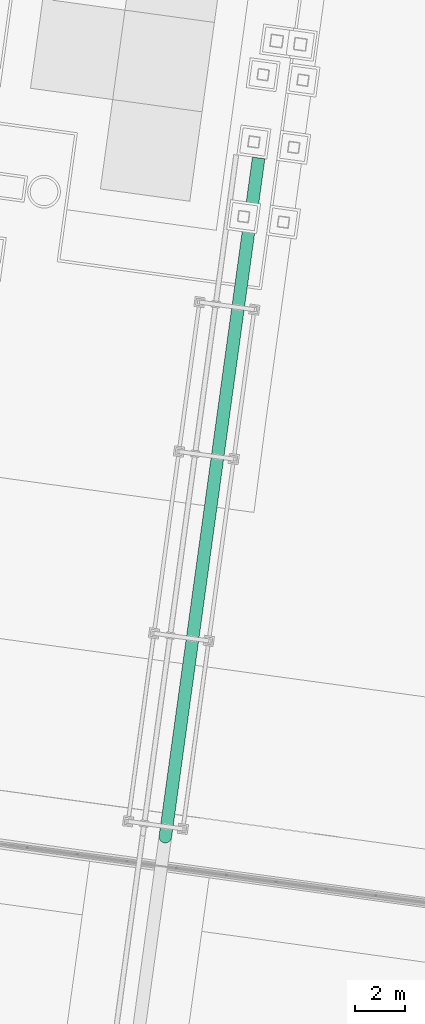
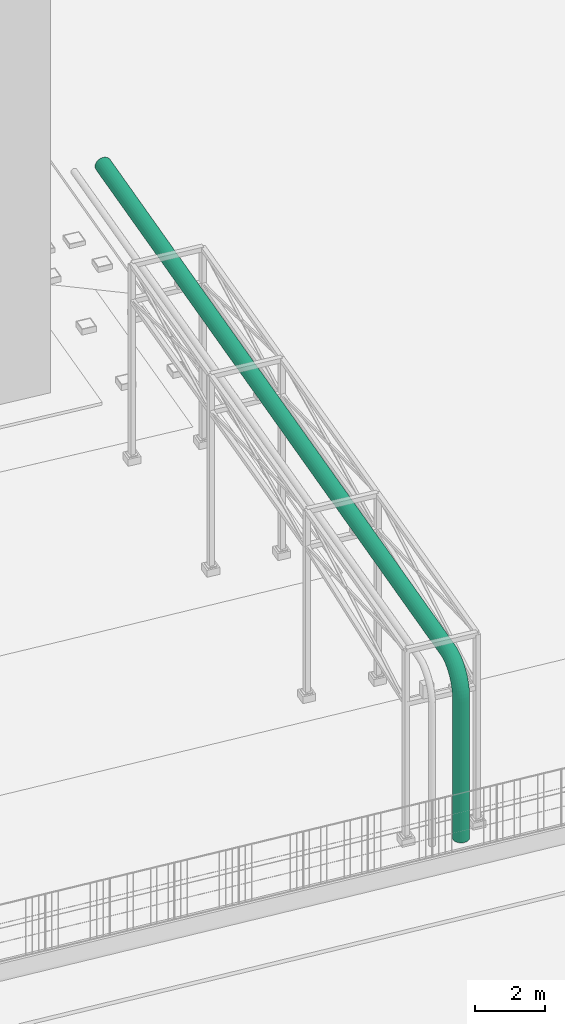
# Not in any storey, part 34 of 75: 1 pipe segment.
"""IFC4 model written with IfcOpenShell, lengths in metres."""

from ifc_helpers import new_model, si_unit, direction, origin, origin_with_axes, place, context, subcontext, project, spatial, triangles, element, save


model = new_model("IFC4")

# Units and contexts
model_context = context("Model", 3, precision=1e-05, world=origin_with_axes(), true_north=direction((0.0, 1.0)))
body_context = subcontext(model_context, "Body", "Model", "MODEL_VIEW")
ifc_project = project(units=[si_unit("AREAUNIT", "SQUARE_METRE"), si_unit("VOLUMEUNIT", "CUBIC_METRE"), si_unit("LENGTHUNIT", "METRE")], contexts=[model_context])

# Site
site_placement = place(None, origin_with_axes())
site = spatial("IfcSite", under=ifc_project, at=site_placement, Name="Parcela industrial Jinhong")

# Pipe segment
pipe_segment_placement = place(None, origin())
element("IfcPipeSegment", 1, at=pipe_segment_placement, inside=site, Name="Nitrógeno Ø 0,5 m · tramo aéreo y bajante", ObjectType="Nitrógeno Ø 0,5 m · tramo aéreo y bajante", PredefinedType="USERDEFINED", context=body_context, shape_type="Tessellation", body=[
    triangles([(59.693477, 40.404657, 7.2), (59.685037, 40.405818, 7.264705), (59.660295, 40.409219, 7.325), (59.620936, 40.414631, 7.376777), (59.569641, 40.421683, 7.416506), (59.509908, 40.429895, 7.441481), (59.445806, 40.438708, 7.45), (59.381705, 40.447521, 7.441481), (59.321971, 40.455734, 7.416506), (59.270677, 40.462786, 7.376777), (59.231318, 40.468197, 7.325), (59.206575, 40.471599, 7.264705), (59.198136, 40.472759, 7.2), (59.206575, 40.471599, 7.135295), (59.231318, 40.468197, 7.075), (59.270677, 40.462786, 7.023223), (59.321971, 40.455734, 6.983494), (59.381705, 40.447521, 6.958519), (59.445806, 40.438708, 6.95), (59.509908, 40.429895, 6.958519), (59.569641, 40.421683, 6.983494), (59.620936, 40.414631, 7.023223), (59.660295, 40.409219, 7.075), (59.685037, 40.405818, 7.135295), (56.118125, 14.399286, 7.2), (56.109684, 14.400434, 7.264705), (56.08494, 14.403825, 7.325), (56.045579, 14.409227, 7.376777), (55.994284, 14.416272, 7.416506), (55.93455, 14.42448, 7.441481), (55.870448, 14.433291, 7.45), (55.806347, 14.442106, 7.441481), (55.746614, 14.450323, 7.416506), (55.695321, 14.457382, 7.376777), (55.655963, 14.462803, 7.325), (55.631222, 14.466216, 7.264705), (55.622784, 14.467387, 7.2), (55.631225, 14.466239, 7.135295), (55.655969, 14.462848, 7.075), (55.69533, 14.457446, 7.023223), (55.746625, 14.450401, 6.983494), (55.806359, 14.442193, 6.958519), (55.870461, 14.433382, 6.95), (55.934562, 14.424567, 6.958519), (55.994295, 14.41635, 6.983494), (56.045588, 14.409291, 7.023223), (56.084946, 14.40387, 7.075), (56.109687, 14.400458, 7.135295), (56.104775, 14.302182, 7.195185), (56.095472, 14.297059, 7.259578), (56.069924, 14.294606, 7.319583), (56.029874, 14.294989, 7.37111), (55.978049, 14.298184, 7.410649), (55.917982, 14.303971, 7.435503), (55.853767, 14.311957, 7.443981), (55.789779, 14.321597, 7.435503), (55.730379, 14.332235, 7.410649), (55.679615, 14.343145, 7.37111), (55.640947, 14.353584, 7.319583), (55.617009, 14.36284, 7.259578), (55.609434, 14.370284, 7.195185), (55.618737, 14.375407, 7.130792), (55.644284, 14.37786, 7.070787), (55.684335, 14.377476, 7.019259), (55.73616, 14.374282, 6.979721), (55.796226, 14.368495, 6.954866), (55.860442, 14.360509, 6.946389), (55.92443, 14.350869, 6.954866), (55.98383, 14.340231, 6.979721), (56.034594, 14.329321, 7.019259), (56.073262, 14.318882, 7.070787), (56.097199, 14.309625, 7.130792), (56.091553, 14.206013, 7.180785), (56.081394, 14.194668, 7.244247), (56.05505, 14.186416, 7.303383), (56.014315, 14.181821, 7.354165), (55.961965, 14.181194, 7.393132), (55.901568, 14.18458, 7.417627), (55.83724, 14.191746, 7.425982), (55.773364, 14.202206, 7.417627), (55.714294, 14.215245, 7.393132), (55.664056, 14.229976, 7.354165), (55.626072, 14.245394, 7.303383), (55.602932, 14.260449, 7.244247), (55.596212, 14.274115, 7.180785), (55.606371, 14.285461, 7.117324), (55.632715, 14.293712, 7.058187), (55.673451, 14.298308, 7.007405), (55.7258, 14.298934, 6.968439), (55.786197, 14.295549, 6.943944), (55.850526, 14.288382, 6.935589), (55.914401, 14.277923, 6.943944), (55.973471, 14.264883, 6.968439), (56.023709, 14.250153, 7.007405), (56.061693, 14.234734, 7.058187), (56.084833, 14.219679, 7.117324), (56.078587, 14.111706, 7.15694), (56.067589, 14.094259, 7.218859), (56.040463, 14.080321, 7.276558), (55.999057, 14.070842, 7.326105), (55.946192, 14.066469, 7.364124), (55.885471, 14.067499, 7.388024), (55.821032, 14.073862, 7.396175), (55.757267, 14.085125, 7.388024), (55.698521, 14.10052, 7.364124), (55.648798, 14.118997, 7.326105), (55.611486, 14.139299, 7.276558), (55.589127, 14.16004, 7.218859), (55.583247, 14.179808, 7.15694), (55.594244, 14.197256, 7.095022), (55.62137, 14.211193, 7.037323), (55.662777, 14.220672, 6.987776), (55.715642, 14.225045, 6.949757), (55.776363, 14.224015, 6.925857), (55.840801, 14.217652, 6.917705), (55.904566, 14.206389, 6.925857), (55.963312, 14.190994, 6.949757), (56.013035, 14.172517, 6.987776), (56.050348, 14.152215, 7.037323), (56.072706, 14.131474, 7.095022), (56.066002, 14.020168, 7.12388), (56.05419, 13.996798, 7.183659), (56.026305, 13.977341, 7.239364), (55.984247, 13.963123, 7.2872), (55.930882, 13.955113, 7.323905), (55.869847, 13.953857, 7.346979), (55.805301, 13.95944, 7.354849), (55.741643, 13.971483, 7.346979), (55.683212, 13.989164, 7.323905), (55.633988, 14.011278, 7.2872), (55.597328, 14.036319, 7.239364), (55.575728, 14.062579, 7.183659), (55.570661, 14.08827, 7.12388), (55.582473, 14.111641, 7.0641), (55.610358, 14.131098, 7.008395), (55.652416, 14.145316, 6.960559), (55.705781, 14.153326, 6.923854), (55.766817, 14.154582, 6.90078), (55.831362, 14.148999, 6.89291), (55.89502, 14.136956, 6.90078), (55.953452, 14.119275, 6.923854), (56.002675, 14.097161, 6.960559), (56.039336, 14.07212, 7.008395), (56.060935, 14.045859, 7.0641), (56.053919, 13.932282, 7.081921), (56.041325, 13.903225, 7.138986), (56.012711, 13.878468, 7.192161), (55.970028, 13.8597, 7.237824), (55.916183, 13.848198, 7.272863), (55.854846, 13.844747, 7.294889), (55.790197, 13.849582, 7.302402), (55.726642, 13.862373, 7.294889), (55.668512, 13.882249, 7.272863), (55.619769, 13.907855, 7.237824), (55.583734, 13.937446, 7.192161), (55.562863, 13.969006, 7.138986), (55.558578, 14.000384, 7.081921), (55.571172, 14.029441, 7.024857), (55.599786, 14.054197, 6.971681), (55.642469, 14.072966, 6.926018), (55.696314, 14.084468, 6.89098), (55.757651, 14.087919, 6.868954), (55.8223, 14.083084, 6.861441), (55.885855, 14.070292, 6.868954), (55.943985, 14.050417, 6.89098), (55.992728, 14.02481, 6.926018), (56.028763, 13.995219, 6.971681), (56.049634, 13.963659, 7.024857), (56.042454, 13.848893, 7.03147), (56.029119, 13.81444, 7.08527), (55.999814, 13.784656, 7.135403), (55.956536, 13.761569, 7.178454), (55.902236, 13.746755, 7.211488), (55.840612, 13.741221, 7.232254), (55.775866, 13.745346, 7.239337), (55.712409, 13.758847, 7.232254), (55.654565, 13.780806, 7.211488), (55.606278, 13.809725, 7.178454), (55.570836, 13.843634, 7.135403), (55.550656, 13.880221, 7.08527), (55.547114, 13.916995, 7.03147), (55.560449, 13.951447, 6.97767), (55.589754, 13.981232, 6.927536), (55.633031, 14.004318, 6.884485), (55.687332, 14.019133, 6.851451), (55.748955, 14.024666, 6.830685), (55.813701, 14.020542, 6.823602), (55.877159, 14.00704, 6.830685), (55.935002, 13.985082, 6.851451), (55.98329, 13.956163, 6.884485), (56.018731, 13.922254, 6.927536), (56.038911, 13.885666, 6.97767), (56.031718, 13.770804, 6.97301), (56.017688, 13.731299, 7.023028), (55.987736, 13.696806, 7.069637), (55.943902, 13.669677, 7.109661), (55.889175, 13.65176, 7.140372), (55.827284, 13.644276, 7.159678), (55.762446, 13.647735, 7.166263), (55.69908, 13.661902, 7.159678), (55.641505, 13.685811, 7.140372), (55.593644, 13.717832, 7.109661), (55.558758, 13.755784, 7.069637), (55.539226, 13.79708, 7.023028), (55.536378, 13.838906, 6.97301), (55.550408, 13.878412, 6.922993), (55.58036, 13.912904, 6.876384), (55.624193, 13.940034, 6.83636), (55.67892, 13.957951, 6.805649), (55.740812, 13.965435, 6.786343), (55.805649, 13.961976, 6.779758), (55.869015, 13.947809, 6.786343), (55.926591, 13.9239, 6.805649), (55.974452, 13.891878, 6.83636), (56.009337, 13.853926, 6.876384), (56.02887, 13.81263, 6.922993), (56.021814, 13.698768, 6.907107), (56.007143, 13.654602, 6.95286), (55.976594, 13.615766, 6.995495), (55.932248, 13.584907, 7.032107), (55.877127, 13.564127, 7.0602), (55.814988, 13.554844, 7.07786), (55.750066, 13.55769, 7.083883), (55.686785, 13.572471, 7.07786), (55.629457, 13.598178, 7.0602), (55.581989, 13.633062, 7.032107), (55.547616, 13.674744, 6.995495), (55.528681, 13.720383, 6.95286), (55.526474, 13.76687, 6.907107), (55.541145, 13.811037, 6.861354), (55.571694, 13.849873, 6.818718), (55.61604, 13.880732, 6.782107), (55.671161, 13.901511, 6.754014), (55.733299, 13.910794, 6.736354), (55.798222, 13.907949, 6.73033), (55.861503, 13.893168, 6.736354), (55.918831, 13.86746, 6.754014), (55.966299, 13.832577, 6.782107), (56.000671, 13.790895, 6.818718), (56.019607, 13.745255, 6.861354), (56.012838, 13.633479, 6.834393), (55.997586, 13.585088, 6.875442), (55.966495, 13.542315, 6.913692), (55.921685, 13.508075, 6.946539), (55.866207, 13.484702, 6.971743), (55.803844, 13.473789, 6.987587), (55.738846, 13.476078, 6.992992), (55.675641, 13.491415, 6.987587), (55.618537, 13.518753, 6.971743), (55.571426, 13.556231, 6.946539), (55.537518, 13.601293, 6.913692), (55.519124, 13.650869, 6.875442), (55.517497, 13.701581, 6.834393), (55.532749, 13.749972, 6.793345), (55.56384, 13.792745, 6.755094), (55.608651, 13.826984, 6.722247), (55.664128, 13.850357, 6.697043), (55.726491, 13.861271, 6.681199), (55.791489, 13.858982, 6.675795), (55.854694, 13.843645, 6.681199), (55.911798, 13.816306, 6.697043), (55.958909, 13.778829, 6.722247), (55.992817, 13.733767, 6.755094), (56.011211, 13.68419, 6.793345), (56.004875, 13.575565, 6.75557), (55.989108, 13.523426, 6.791518), (55.957538, 13.477161, 6.825017), (55.912315, 13.439923, 6.853782), (55.856521, 13.414249, 6.875855), (55.793959, 13.401889, 6.88973), (55.728893, 13.403685, 6.894463), (55.665756, 13.419515, 6.88973), (55.608851, 13.4483, 6.875855), (55.562056, 13.488078, 6.853782), (55.52856, 13.536139, 6.825017), (55.510646, 13.589208, 6.791518), (55.509535, 13.643666, 6.75557), (55.525302, 13.695805, 6.719622), (55.556873, 13.74207, 6.686124), (55.602096, 13.779308, 6.657358), (55.657889, 13.804982, 6.635286), (55.720451, 13.817342, 6.62141), (55.785518, 13.815546, 6.616678), (55.848655, 13.799716, 6.62141), (55.90556, 13.770931, 6.635286), (55.952354, 13.731153, 6.657358), (55.98585, 13.683092, 6.686124), (56.003764, 13.630023, 6.719622), (55.998004, 13.525583, 6.671397), (55.981792, 13.470211, 6.701898), (55.949807, 13.420932, 6.730321), (55.904228, 13.381106, 6.754729), (55.848162, 13.353446, 6.773457), (55.785428, 13.339838, 6.78523), (55.720303, 13.341208, 6.789246), (55.657225, 13.357464, 6.78523), (55.600491, 13.387497, 6.773457), (55.55397, 13.429261, 6.754729), (55.52083, 13.47991, 6.730321), (55.50333, 13.535992, 6.701898), (55.502663, 13.593685, 6.671397), (55.518875, 13.649057, 6.640895), (55.55086, 13.698336, 6.612472), (55.596439, 13.738162, 6.588065), (55.652505, 13.765822, 6.569336), (55.715239, 13.77943, 6.557563), (55.780364, 13.77806, 6.553548), (55.843442, 13.761804, 6.557563), (55.900176, 13.731771, 6.569336), (55.946697, 13.690007, 6.588065), (55.979837, 13.639358, 6.612472), (55.997337, 13.583276, 6.640895), (55.992289, 13.484016, 6.582683), (55.975707, 13.425954, 6.607445), (55.943378, 13.374169, 6.630519), (55.897503, 13.332191, 6.650333), (55.841209, 13.30288, 6.665537), (55.778333, 13.288233, 6.675094), (55.71316, 13.289249, 6.678354), (55.65013, 13.305859, 6.675094), (55.593539, 13.336931, 6.665537), (55.547244, 13.380346, 6.650333), (55.5144, 13.433147, 6.630519), (55.497245, 13.491735, 6.607445), (55.496948, 13.552118, 6.582683), (55.51353, 13.61018, 6.557922), (55.545859, 13.661964, 6.534848), (55.591734, 13.703943, 6.515034), (55.648028, 13.733254, 6.49983), (55.710904, 13.7479, 6.490272), (55.776078, 13.746884, 6.487013), (55.839107, 13.730274, 6.490272), (55.895698, 13.699203, 6.49983), (55.941993, 13.655787, 6.515034), (55.974837, 13.602986, 6.534848), (55.991992, 13.544398, 6.557922), (55.987786, 13.451263, 6.490285), (55.970913, 13.391082, 6.509067), (55.938312, 13.337322, 6.52657), (55.892204, 13.293648, 6.5416), (55.835732, 13.263036, 6.553133), (55.772743, 13.247571, 6.560383), (55.707531, 13.248308, 6.562856), (55.644539, 13.265197, 6.560383), (55.588061, 13.297087, 6.553133), (55.541945, 13.341803, 6.5416), (55.509335, 13.3963, 6.52657), (55.492451, 13.456863, 6.509067), (55.492445, 13.519365, 6.490285), (55.509318, 13.579546, 6.471502), (55.541919, 13.633306, 6.453999), (55.588027, 13.67698, 6.438969), (55.6445, 13.707592, 6.427436), (55.707488, 13.723057, 6.420186), (55.7727, 13.72232, 6.417714), (55.835692, 13.705431, 6.420186), (55.89217, 13.673541, 6.427436), (55.938286, 13.628825, 6.438969), (55.970897, 13.574328, 6.453999), (55.98778, 13.513765, 6.471502), (55.984538, 13.42764, 6.39509), (55.967455, 13.365931, 6.407714), (55.934658, 13.310747, 6.419477), (55.888382, 13.265849, 6.429578), (55.831781, 13.234298, 6.437329), (55.768711, 13.218244, 6.442201), (55.703471, 13.21878, 6.443863), (55.640507, 13.23587, 6.442201), (55.58411, 13.268349, 6.437329), (55.538124, 13.314005, 6.429578), (55.505681, 13.369725, 6.419477), (55.488993, 13.431712, 6.407714), (55.489198, 13.495742, 6.39509), (55.506281, 13.557452, 6.382467), (55.539078, 13.612636, 6.370704), (55.585354, 13.657533, 6.360603), (55.641955, 13.689084, 6.352852), (55.705025, 13.705139, 6.34798), (55.770265, 13.704603, 6.346318), (55.833228, 13.687513, 6.34798), (55.889625, 13.655033, 6.352852), (55.935612, 13.609378, 6.360603), (55.968055, 13.553658, 6.370704), (55.984743, 13.491671, 6.382467), (55.982577, 13.413375, 6.298017), (55.965367, 13.350742, 6.304359), (55.932452, 13.294698, 6.310269), (55.886074, 13.249062, 6.315344), (55.829395, 13.216945, 6.319238), (55.766276, 13.200534, 6.321686), (55.70102, 13.200948, 6.322521), (55.638072, 13.21816, 6.321686), (55.581724, 13.250996, 6.319238), (55.535816, 13.297218, 6.315344), (55.503474, 13.353676, 6.310269), (55.486905, 13.416524, 6.304359), (55.487236, 13.481477, 6.298017), (55.504446, 13.54411, 6.291675), (55.537361, 13.600154, 6.285765), (55.583739, 13.64579, 6.28069), (55.640418, 13.677907, 6.276796), (55.703537, 13.694318, 6.274348), (55.768794, 13.693904, 6.273513), (55.831741, 13.676692, 6.274348), (55.888089, 13.643856, 6.276796), (55.933998, 13.597634, 6.28069), (55.966339, 13.541176, 6.285765), (55.982908, 13.478328, 6.291675), (55.981921, 13.408605, 6.2), (55.964669, 13.345663, 6.200062), (55.931714, 13.289332, 6.20012), (55.885302, 13.243449, 6.200169), (55.828597, 13.211142, 6.200207), (55.765462, 13.194612, 6.200231), (55.7002, 13.194986, 6.200239), (55.637258, 13.212238, 6.200231), (55.580927, 13.245193, 6.200207), (55.535044, 13.291604, 6.200169), (55.502737, 13.34831, 6.20012), (55.486207, 13.411445, 6.200062), (55.486581, 13.476707, 6.2), (55.503833, 13.539648, 6.199938), (55.536788, 13.59598, 6.19988), (55.583199, 13.641863, 6.199831), (55.639905, 13.67417, 6.199793), (55.70304, 13.6907, 6.199769), (55.768302, 13.690326, 6.199761), (55.831243, 13.673074, 6.199769), (55.887575, 13.640119, 6.199793), (55.933458, 13.593707, 6.199831), (55.965765, 13.537002, 6.19988), (55.982295, 13.473867, 6.199938), (55.981921, 13.408605, 1.261512), (55.964669, 13.345663, 1.261512), (55.931714, 13.289332, 1.261512), (55.885302, 13.243449, 1.261512), (55.828597, 13.211142, 1.261512), (55.765462, 13.194612, 1.261512), (55.7002, 13.194985, 1.261512), (55.637258, 13.212238, 1.261512), (55.580927, 13.245192, 1.261512), (55.535044, 13.291604, 1.261512), (55.502737, 13.34831, 1.261512), (55.486207, 13.411445, 1.261512), (55.486581, 13.476707, 1.261512), (55.503833, 13.539648, 1.261512), (55.536788, 13.59598, 1.261512), (55.583199, 13.641863, 1.261512), (55.639905, 13.67417, 1.261512), (55.70304, 13.6907, 1.261512), (55.768302, 13.690326, 1.261512), (55.831243, 13.673074, 1.261512), (55.887575, 13.640119, 1.261512), (55.933458, 13.593707, 1.261512), (55.965765, 13.537002, 1.261512), (55.982295, 13.473867, 1.261512), (59.445806, 40.438708, 7.2), (55.734251, 13.442656, 1.261512)], [[1, 2, 26], [1, 26, 25], [2, 3, 27], [2, 27, 26], [3, 4, 28], [3, 28, 27], [4, 5, 29], [4, 29, 28], [5, 6, 30], [5, 30, 29], [6, 7, 31], [6, 31, 30], [7, 8, 32], [7, 32, 31], [8, 9, 33], [8, 33, 32], [9, 10, 34], [9, 34, 33], [10, 11, 35], [10, 35, 34], [11, 12, 36], [11, 36, 35], [12, 13, 37], [12, 37, 36], [13, 14, 38], [13, 38, 37], [14, 15, 39], [14, 39, 38], [15, 16, 40], [15, 40, 39], [16, 17, 41], [16, 41, 40], [17, 18, 42], [17, 42, 41], [18, 19, 43], [18, 43, 42], [19, 20, 44], [19, 44, 43], [20, 21, 45], [20, 45, 44], [21, 22, 46], [21, 46, 45], [22, 23, 47], [22, 47, 46], [23, 24, 48], [23, 48, 47], [24, 1, 25], [24, 25, 48], [25, 26, 50], [25, 50, 49], [26, 27, 51], [26, 51, 50], [27, 28, 52], [27, 52, 51], [28, 29, 53], [28, 53, 52], [29, 30, 54], [29, 54, 53], [30, 31, 55], [30, 55, 54], [31, 32, 56], [31, 56, 55], [32, 33, 57], [32, 57, 56], [33, 34, 58], [33, 58, 57], [34, 35, 59], [34, 59, 58], [35, 36, 60], [35, 60, 59], [36, 37, 61], [36, 61, 60], [37, 38, 62], [37, 62, 61], [38, 39, 63], [38, 63, 62], [39, 40, 64], [39, 64, 63], [40, 41, 65], [40, 65, 64], [41, 42, 66], [41, 66, 65], [42, 43, 67], [42, 67, 66], [43, 44, 68], [43, 68, 67], [44, 45, 69], [44, 69, 68], [45, 46, 70], [45, 70, 69], [46, 47, 71], [46, 71, 70], [47, 48, 72], [47, 72, 71], [48, 25, 49], [48, 49, 72], [49, 50, 74], [49, 74, 73], [50, 51, 75], [50, 75, 74], [51, 52, 76], [51, 76, 75], [52, 53, 77], [52, 77, 76], [53, 54, 78], [53, 78, 77], [54, 55, 79], [54, 79, 78], [55, 56, 80], [55, 80, 79], [56, 57, 81], [56, 81, 80], [57, 58, 82], [57, 82, 81], [58, 59, 83], [58, 83, 82], [59, 60, 84], [59, 84, 83], [60, 61, 85], [60, 85, 84], [61, 62, 86], [61, 86, 85], [62, 63, 87], [62, 87, 86], [63, 64, 88], [63, 88, 87], [64, 65, 89], [64, 89, 88], [65, 66, 90], [65, 90, 89], [66, 67, 91], [66, 91, 90], [67, 68, 92], [67, 92, 91], [68, 69, 93], [68, 93, 92], [69, 70, 94], [69, 94, 93], [70, 71, 95], [70, 95, 94], [71, 72, 96], [71, 96, 95], [72, 49, 73], [72, 73, 96], [73, 74, 98], [73, 98, 97], [74, 75, 99], [74, 99, 98], [75, 76, 100], [75, 100, 99], [76, 77, 101], [76, 101, 100], [77, 78, 102], [77, 102, 101], [78, 79, 103], [78, 103, 102], [79, 80, 104], [79, 104, 103], [80, 81, 105], [80, 105, 104], [81, 82, 106], [81, 106, 105], [82, 83, 107], [82, 107, 106], [83, 84, 108], [83, 108, 107], [84, 85, 109], [84, 109, 108], [85, 86, 110], [85, 110, 109], [86, 87, 111], [86, 111, 110], [87, 88, 112], [87, 112, 111], [88, 89, 113], [88, 113, 112], [89, 90, 114], [89, 114, 113], [90, 91, 115], [90, 115, 114], [91, 92, 116], [91, 116, 115], [92, 93, 117], [92, 117, 116], [93, 94, 118], [93, 118, 117], [94, 95, 119], [94, 119, 118], [95, 96, 120], [95, 120, 119], [96, 73, 97], [96, 97, 120], [97, 98, 122], [97, 122, 121], [98, 99, 123], [98, 123, 122], [99, 100, 124], [99, 124, 123], [100, 101, 125], [100, 125, 124], [101, 102, 126], [101, 126, 125], [102, 103, 127], [102, 127, 126], [103, 104, 128], [103, 128, 127], [104, 105, 129], [104, 129, 128], [105, 106, 130], [105, 130, 129], [106, 107, 131], [106, 131, 130], [107, 108, 132], [107, 132, 131], [108, 109, 133], [108, 133, 132], [109, 110, 134], [109, 134, 133], [110, 111, 135], [110, 135, 134], [111, 112, 136], [111, 136, 135], [112, 113, 137], [112, 137, 136], [113, 114, 138], [113, 138, 137], [114, 115, 139], [114, 139, 138], [115, 116, 140], [115, 140, 139], [116, 117, 141], [116, 141, 140], [117, 118, 142], [117, 142, 141], [118, 119, 143], [118, 143, 142], [119, 120, 144], [119, 144, 143], [120, 97, 121], [120, 121, 144], [121, 122, 146], [121, 146, 145], [122, 123, 147], [122, 147, 146], [123, 124, 148], [123, 148, 147], [124, 125, 149], [124, 149, 148], [125, 126, 150], [125, 150, 149], [126, 127, 151], [126, 151, 150], [127, 128, 152], [127, 152, 151], [128, 129, 153], [128, 153, 152], [129, 130, 154], [129, 154, 153], [130, 131, 155], [130, 155, 154], [131, 132, 156], [131, 156, 155], [132, 133, 157], [132, 157, 156], [133, 134, 158], [133, 158, 157], [134, 135, 159], [134, 159, 158], [135, 136, 160], [135, 160, 159], [136, 137, 161], [136, 161, 160], [137, 138, 162], [137, 162, 161], [138, 139, 163], [138, 163, 162], [139, 140, 164], [139, 164, 163], [140, 141, 165], [140, 165, 164], [141, 142, 166], [141, 166, 165], [142, 143, 167], [142, 167, 166], [143, 144, 168], [143, 168, 167], [144, 121, 145], [144, 145, 168], [145, 146, 170], [145, 170, 169], [146, 147, 171], [146, 171, 170], [147, 148, 172], [147, 172, 171], [148, 149, 173], [148, 173, 172], [149, 150, 174], [149, 174, 173], [150, 151, 175], [150, 175, 174], [151, 152, 176], [151, 176, 175], [152, 153, 177], [152, 177, 176], [153, 154, 178], [153, 178, 177], [154, 155, 179], [154, 179, 178], [155, 156, 180], [155, 180, 179], [156, 157, 181], [156, 181, 180], [157, 158, 182], [157, 182, 181], [158, 159, 183], [158, 183, 182], [159, 160, 184], [159, 184, 183], [160, 161, 185], [160, 185, 184], [161, 162, 186], [161, 186, 185], [162, 163, 187], [162, 187, 186], [163, 164, 188], [163, 188, 187], [164, 165, 189], [164, 189, 188], [165, 166, 190], [165, 190, 189], [166, 167, 191], [166, 191, 190], [167, 168, 192], [167, 192, 191], [168, 145, 169], [168, 169, 192], [169, 170, 194], [169, 194, 193], [170, 171, 195], [170, 195, 194], [171, 172, 196], [171, 196, 195], [172, 173, 197], [172, 197, 196], [173, 174, 198], [173, 198, 197], [174, 175, 199], [174, 199, 198], [175, 176, 200], [175, 200, 199], [176, 177, 201], [176, 201, 200], [177, 178, 202], [177, 202, 201], [178, 179, 203], [178, 203, 202], [179, 180, 204], [179, 204, 203], [180, 181, 205], [180, 205, 204], [181, 182, 206], [181, 206, 205], [182, 183, 207], [182, 207, 206], [183, 184, 208], [183, 208, 207], [184, 185, 209], [184, 209, 208], [185, 186, 210], [185, 210, 209], [186, 187, 211], [186, 211, 210], [187, 188, 212], [187, 212, 211], [188, 189, 213], [188, 213, 212], [189, 190, 214], [189, 214, 213], [190, 191, 215], [190, 215, 214], [191, 192, 216], [191, 216, 215], [192, 169, 193], [192, 193, 216], [193, 194, 218], [193, 218, 217], [194, 195, 219], [194, 219, 218], [195, 196, 220], [195, 220, 219], [196, 197, 221], [196, 221, 220], [197, 198, 222], [197, 222, 221], [198, 199, 223], [198, 223, 222], [199, 200, 224], [199, 224, 223], [200, 201, 225], [200, 225, 224], [201, 202, 226], [201, 226, 225], [202, 203, 227], [202, 227, 226], [203, 204, 228], [203, 228, 227], [204, 205, 229], [204, 229, 228], [205, 206, 230], [205, 230, 229], [206, 207, 231], [206, 231, 230], [207, 208, 232], [207, 232, 231], [208, 209, 233], [208, 233, 232], [209, 210, 234], [209, 234, 233], [210, 211, 235], [210, 235, 234], [211, 212, 236], [211, 236, 235], [212, 213, 237], [212, 237, 236], [213, 214, 238], [213, 238, 237], [214, 215, 239], [214, 239, 238], [215, 216, 240], [215, 240, 239], [216, 193, 217], [216, 217, 240], [217, 218, 242], [217, 242, 241], [218, 219, 243], [218, 243, 242], [219, 220, 244], [219, 244, 243], [220, 221, 245], [220, 245, 244], [221, 222, 246], [221, 246, 245], [222, 223, 247], [222, 247, 246], [223, 224, 248], [223, 248, 247], [224, 225, 249], [224, 249, 248], [225, 226, 250], [225, 250, 249], [226, 227, 251], [226, 251, 250], [227, 228, 252], [227, 252, 251], [228, 229, 253], [228, 253, 252], [229, 230, 254], [229, 254, 253], [230, 231, 255], [230, 255, 254], [231, 232, 256], [231, 256, 255], [232, 233, 257], [232, 257, 256], [233, 234, 258], [233, 258, 257], [234, 235, 259], [234, 259, 258], [235, 236, 260], [235, 260, 259], [236, 237, 261], [236, 261, 260], [237, 238, 262], [237, 262, 261], [238, 239, 263], [238, 263, 262], [239, 240, 264], [239, 264, 263], [240, 217, 241], [240, 241, 264], [241, 242, 266], [241, 266, 265], [242, 243, 267], [242, 267, 266], [243, 244, 268], [243, 268, 267], [244, 245, 269], [244, 269, 268], [245, 246, 270], [245, 270, 269], [246, 247, 271], [246, 271, 270], [247, 248, 272], [247, 272, 271], [248, 249, 273], [248, 273, 272], [249, 250, 274], [249, 274, 273], [250, 251, 275], [250, 275, 274], [251, 252, 276], [251, 276, 275], [252, 253, 277], [252, 277, 276], [253, 254, 278], [253, 278, 277], [254, 255, 279], [254, 279, 278], [255, 256, 280], [255, 280, 279], [256, 257, 281], [256, 281, 280], [257, 258, 282], [257, 282, 281], [258, 259, 283], [258, 283, 282], [259, 260, 284], [259, 284, 283], [260, 261, 285], [260, 285, 284], [261, 262, 286], [261, 286, 285], [262, 263, 287], [262, 287, 286], [263, 264, 288], [263, 288, 287], [264, 241, 265], [264, 265, 288], [265, 266, 290], [265, 290, 289], [266, 267, 291], [266, 291, 290], [267, 268, 292], [267, 292, 291], [268, 269, 293], [268, 293, 292], [269, 270, 294], [269, 294, 293], [270, 271, 295], [270, 295, 294], [271, 272, 296], [271, 296, 295], [272, 273, 297], [272, 297, 296], [273, 274, 298], [273, 298, 297], [274, 275, 299], [274, 299, 298], [275, 276, 300], [275, 300, 299], [276, 277, 301], [276, 301, 300], [277, 278, 302], [277, 302, 301], [278, 279, 303], [278, 303, 302], [279, 280, 304], [279, 304, 303], [280, 281, 305], [280, 305, 304], [281, 282, 306], [281, 306, 305], [282, 283, 307], [282, 307, 306], [283, 284, 308], [283, 308, 307], [284, 285, 309], [284, 309, 308], [285, 286, 310], [285, 310, 309], [286, 287, 311], [286, 311, 310], [287, 288, 312], [287, 312, 311], [288, 265, 289], [288, 289, 312], [289, 290, 314], [289, 314, 313], [290, 291, 315], [290, 315, 314], [291, 292, 316], [291, 316, 315], [292, 293, 317], [292, 317, 316], [293, 294, 318], [293, 318, 317], [294, 295, 319], [294, 319, 318], [295, 296, 320], [295, 320, 319], [296, 297, 321], [296, 321, 320], [297, 298, 322], [297, 322, 321], [298, 299, 323], [298, 323, 322], [299, 300, 324], [299, 324, 323], [300, 301, 325], [300, 325, 324], [301, 302, 326], [301, 326, 325], [302, 303, 327], [302, 327, 326], [303, 304, 328], [303, 328, 327], [304, 305, 329], [304, 329, 328], [305, 306, 330], [305, 330, 329], [306, 307, 331], [306, 331, 330], [307, 308, 332], [307, 332, 331], [308, 309, 333], [308, 333, 332], [309, 310, 334], [309, 334, 333], [310, 311, 335], [310, 335, 334], [311, 312, 336], [311, 336, 335], [312, 289, 313], [312, 313, 336], [313, 314, 338], [313, 338, 337], [314, 315, 339], [314, 339, 338], [315, 316, 340], [315, 340, 339], [316, 317, 341], [316, 341, 340], [317, 318, 342], [317, 342, 341], [318, 319, 343], [318, 343, 342], [319, 320, 344], [319, 344, 343], [320, 321, 345], [320, 345, 344], [321, 322, 346], [321, 346, 345], [322, 323, 347], [322, 347, 346], [323, 324, 348], [323, 348, 347], [324, 325, 349], [324, 349, 348], [325, 326, 350], [325, 350, 349], [326, 327, 351], [326, 351, 350], [327, 328, 352], [327, 352, 351], [328, 329, 353], [328, 353, 352], [329, 330, 354], [329, 354, 353], [330, 331, 355], [330, 355, 354], [331, 332, 356], [331, 356, 355], [332, 333, 357], [332, 357, 356], [333, 334, 358], [333, 358, 357], [334, 335, 359], [334, 359, 358], [335, 336, 360], [335, 360, 359], [336, 313, 337], [336, 337, 360], [337, 338, 362], [337, 362, 361], [338, 339, 363], [338, 363, 362], [339, 340, 364], [339, 364, 363], [340, 341, 365], [340, 365, 364], [341, 342, 366], [341, 366, 365], [342, 343, 367], [342, 367, 366], [343, 344, 368], [343, 368, 367], [344, 345, 369], [344, 369, 368], [345, 346, 370], [345, 370, 369], [346, 347, 371], [346, 371, 370], [347, 348, 372], [347, 372, 371], [348, 349, 373], [348, 373, 372], [349, 350, 374], [349, 374, 373], [350, 351, 375], [350, 375, 374], [351, 352, 376], [351, 376, 375], [352, 353, 377], [352, 377, 376], [353, 354, 378], [353, 378, 377], [354, 355, 379], [354, 379, 378], [355, 356, 380], [355, 380, 379], [356, 357, 381], [356, 381, 380], [357, 358, 382], [357, 382, 381], [358, 359, 383], [358, 383, 382], [359, 360, 384], [359, 384, 383], [360, 337, 361], [360, 361, 384], [361, 362, 386], [361, 386, 385], [362, 363, 387], [362, 387, 386], [363, 364, 388], [363, 388, 387], [364, 365, 389], [364, 389, 388], [365, 366, 390], [365, 390, 389], [366, 367, 391], [366, 391, 390], [367, 368, 392], [367, 392, 391], [368, 369, 393], [368, 393, 392], [369, 370, 394], [369, 394, 393], [370, 371, 395], [370, 395, 394], [371, 372, 396], [371, 396, 395], [372, 373, 397], [372, 397, 396], [373, 374, 398], [373, 398, 397], [374, 375, 399], [374, 399, 398], [375, 376, 400], [375, 400, 399], [376, 377, 401], [376, 401, 400], [377, 378, 402], [377, 402, 401], [378, 379, 403], [378, 403, 402], [379, 380, 404], [379, 404, 403], [380, 381, 405], [380, 405, 404], [381, 382, 406], [381, 406, 405], [382, 383, 407], [382, 407, 406], [383, 384, 408], [383, 408, 407], [384, 361, 385], [384, 385, 408], [385, 386, 410], [385, 410, 409], [386, 387, 411], [386, 411, 410], [387, 388, 412], [387, 412, 411], [388, 389, 413], [388, 413, 412], [389, 390, 414], [389, 414, 413], [390, 391, 415], [390, 415, 414], [391, 392, 416], [391, 416, 415], [392, 393, 417], [392, 417, 416], [393, 394, 418], [393, 418, 417], [394, 395, 419], [394, 419, 418], [395, 396, 420], [395, 420, 419], [396, 397, 421], [396, 421, 420], [397, 398, 422], [397, 422, 421], [398, 399, 423], [398, 423, 422], [399, 400, 424], [399, 424, 423], [400, 401, 425], [400, 425, 424], [401, 402, 426], [401, 426, 425], [402, 403, 427], [402, 427, 426], [403, 404, 428], [403, 428, 427], [404, 405, 429], [404, 429, 428], [405, 406, 430], [405, 430, 429], [406, 407, 431], [406, 431, 430], [407, 408, 432], [407, 432, 431], [408, 385, 409], [408, 409, 432], [409, 410, 434], [409, 434, 433], [410, 411, 435], [410, 435, 434], [411, 412, 436], [411, 436, 435], [412, 413, 437], [412, 437, 436], [413, 414, 438], [413, 438, 437], [414, 415, 439], [414, 439, 438], [415, 416, 440], [415, 440, 439], [416, 417, 441], [416, 441, 440], [417, 418, 442], [417, 442, 441], [418, 419, 443], [418, 443, 442], [419, 420, 444], [419, 444, 443], [420, 421, 445], [420, 445, 444], [421, 422, 446], [421, 446, 445], [422, 423, 447], [422, 447, 446], [423, 424, 448], [423, 448, 447], [424, 425, 449], [424, 449, 448], [425, 426, 450], [425, 450, 449], [426, 427, 451], [426, 451, 450], [427, 428, 452], [427, 452, 451], [428, 429, 453], [428, 453, 452], [429, 430, 454], [429, 454, 453], [430, 431, 455], [430, 455, 454], [431, 432, 456], [431, 456, 455], [432, 409, 433], [432, 433, 456], [457, 2, 1], [458, 433, 434], [457, 3, 2], [458, 434, 435], [457, 4, 3], [458, 435, 436], [457, 5, 4], [458, 436, 437], [457, 6, 5], [458, 437, 438], [457, 7, 6], [458, 438, 439], [457, 8, 7], [458, 439, 440], [457, 9, 8], [458, 440, 441], [457, 10, 9], [458, 441, 442], [457, 11, 10], [458, 442, 443], [457, 12, 11], [458, 443, 444], [457, 13, 12], [458, 444, 445], [457, 14, 13], [458, 445, 446], [457, 15, 14], [458, 446, 447], [457, 16, 15], [458, 447, 448], [457, 17, 16], [458, 448, 449], [457, 18, 17], [458, 449, 450], [457, 19, 18], [458, 450, 451], [457, 20, 19], [458, 451, 452], [457, 21, 20], [458, 452, 453], [457, 22, 21], [458, 453, 454], [457, 23, 22], [458, 454, 455], [457, 24, 23], [458, 455, 456], [457, 1, 24], [458, 456, 433]], closed=True),
])

save(model, "model.ifc")
